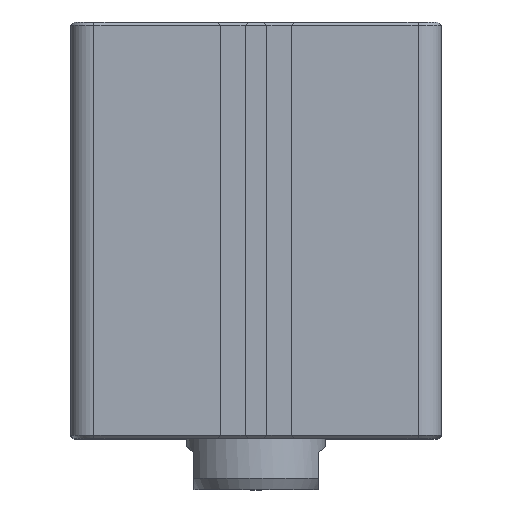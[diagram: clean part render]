
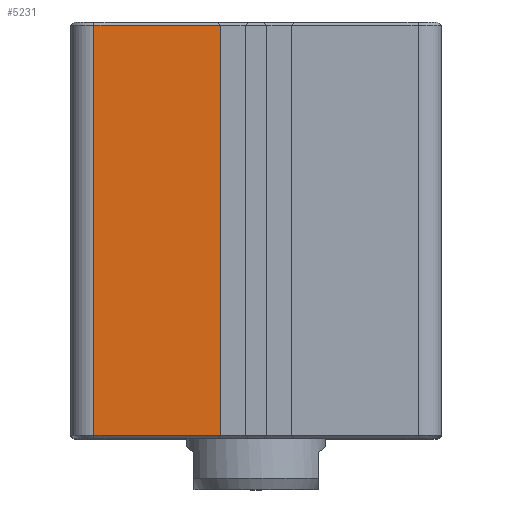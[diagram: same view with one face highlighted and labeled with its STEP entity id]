
A CAD part, top view. The second image highlights one B-rep face of the part: STEP entity #5231.
In plain terms, the highlighted planar face has unit normal (0, 0, 1).
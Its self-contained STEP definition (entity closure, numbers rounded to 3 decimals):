
#105=LINE('',#7193,#495);
#107=LINE('',#7197,#497);
#108=LINE('',#7199,#498);
#109=LINE('',#7201,#499);
#495=VECTOR('',#5910,1000.);
#497=VECTOR('',#5914,1000.);
#498=VECTOR('',#5915,1000.);
#499=VECTOR('',#5916,1000.);
#1071=ORIENTED_EDGE('',*,*,#2007,.F.);
#1072=ORIENTED_EDGE('',*,*,#2009,.T.);
#1073=ORIENTED_EDGE('',*,*,#2010,.T.);
#1074=ORIENTED_EDGE('',*,*,#2011,.T.);
#2007=EDGE_CURVE('',#2486,#2487,#105,.T.);
#2009=EDGE_CURVE('',#2486,#2488,#107,.T.);
#2010=EDGE_CURVE('',#2488,#2489,#108,.T.);
#2011=EDGE_CURVE('',#2489,#2487,#109,.T.);
#2486=VERTEX_POINT('',#7192);
#2487=VERTEX_POINT('',#7194);
#2488=VERTEX_POINT('',#7198);
#2489=VERTEX_POINT('',#7200);
#2859=EDGE_LOOP('',(#1071,#1072,#1073,#1074));
#3145=FACE_BOUND('',#2859,.T.);
#3382=PLANE('',#5498);
#5231=ADVANCED_FACE('',(#3145),#3382,.T.);
#5498=AXIS2_PLACEMENT_3D('',#7196,#5912,#5913);
#5910=DIRECTION('',(0.,-1.,0.));
#5912=DIRECTION('',(0.,0.,1.));
#5913=DIRECTION('',(1.,0.,0.));
#5914=DIRECTION('',(-1.,0.,0.));
#5915=DIRECTION('',(0.,-1.,0.));
#5916=DIRECTION('',(1.,0.,0.));
#7192=CARTESIAN_POINT('',(-7.65,89.3,40.));
#7193=CARTESIAN_POINT('',(-7.65,70.,40.));
#7194=CARTESIAN_POINT('',(-7.65,0.7,40.));
#7196=CARTESIAN_POINT('',(-7.65,70.,40.));
#7197=CARTESIAN_POINT('',(-7.65,89.3,40.));
#7198=CARTESIAN_POINT('',(-35.,89.3,40.));
#7199=CARTESIAN_POINT('',(-35.,70.,40.));
#7200=CARTESIAN_POINT('',(-35.,0.7,40.));
#7201=CARTESIAN_POINT('',(-7.65,0.7,40.));
